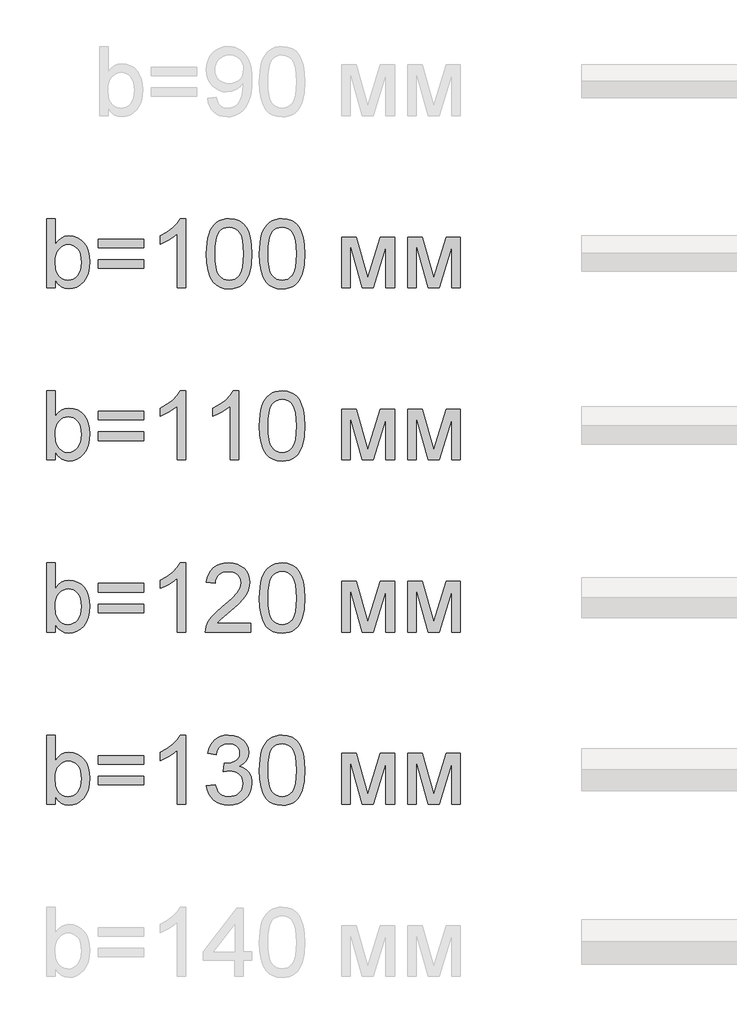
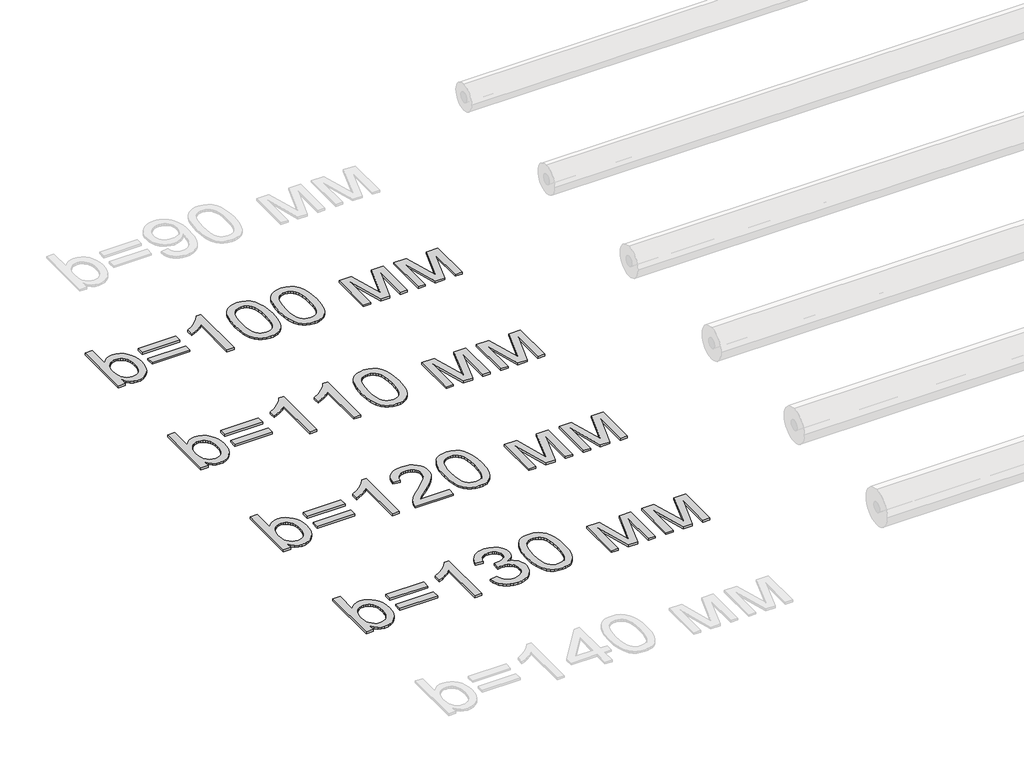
# One storey, part 53 of 86: 4 proxies.
"""IFC4 building model written with IfcOpenShell, lengths in millimetres."""

import ifcopenshell
import ifcopenshell.guid

model = None  # the IFC model being written
_history = None  # IfcOwnerHistory: only IFC2X3 demands one
_inside = {}  # id of a spatial element -> (the spatial element, [elements in it])
_under = {}  # id of a project, library or spatial element -> (it, [spatial elements below it])
_declared = {}  # id of a project -> (the project, [libraries it declares])
_typed = {}  # id of a type object -> (the type object, [elements of that type])
_made_of = {}  # id of a material, layer set ... -> (it, [elements and type objects made of it])


def new_model(schema):
    """Start an empty IFC model of exactly this schema.

    Asked for "IFC4X3", IfcOpenShell would pick the latest addendum, in which some entities
    have other attributes; the version numbers below select the first issue.
    IFC2X3 requires an IfcOwnerHistory on every rooted entity: one is made here for all.
    """
    global model, _history
    if schema == "IFC4X3":
        model = ifcopenshell.file(schema_version=(4, 3, 0, 0))
    else:
        model = ifcopenshell.file(schema=schema)
    _inside.clear()
    _under.clear()
    _declared.clear()
    _typed.clear()
    _made_of.clear()
    _history = None
    if model.schema == "IFC2X3":
        org = make("IfcOrganization", Name="unknown")
        user = make(
            "IfcPersonAndOrganization",
            ThePerson=make("IfcPerson", FamilyName="unknown"),
            TheOrganization=org,
        )
        app = make(
            "IfcApplication",
            ApplicationDeveloper=org,
            Version="unknown",
            ApplicationFullName="unknown",
            ApplicationIdentifier="unknown",
        )
        _history = make(
            "IfcOwnerHistory",
            OwningUser=user,
            OwningApplication=app,
            ChangeAction="ADDED",
            CreationDate=0,
        )
    return model


def make(cls, **values):
    """One entity of the class cls with the attributes given. An attribute that is None is left unset."""
    return model.create_entity(
        cls, **{name: value for name, value in values.items() if value is not None}
    )


def rooted(cls, **values):
    """An entity with a GlobalId (a new one), such as an element, a storey or a relation."""
    return make(cls, GlobalId=ifcopenshell.guid.new(), OwnerHistory=_history, **values)


def si_unit(unit_type, name, prefix=None):
    """IfcSIUnit, for example si_unit("LENGTHUNIT", "METRE", prefix="MILLI")."""
    return make("IfcSIUnit", UnitType=unit_type, Prefix=prefix, Name=name)


def assignment(units):
    """IfcUnitAssignment: the units of a project."""
    return None if units is None else make("IfcUnitAssignment", Units=units)


def point(xyz):
    """IfcCartesianPoint."""
    return None if xyz is None else make("IfcCartesianPoint", Coordinates=xyz)


def direction(xyz):
    """IfcDirection."""
    return None if xyz is None else make("IfcDirection", DirectionRatios=xyz)


def frame(location, z_axis=None, x_axis=None):
    """IfcAxis2Placement3D, a coordinate frame: its origin and axes. An axis left out is left unset."""
    return make(
        "IfcAxis2Placement3D",
        Location=point(location),
        Axis=direction(z_axis),
        RefDirection=direction(x_axis),
    )


def origin():
    """The frame at (0, 0, 0) with its axes left unset."""
    return frame((0.0, 0.0, 0.0))


def origin_with_axes():
    """The frame at (0, 0, 0) with the z axis (0, 0, 1) and the x axis (1, 0, 0) written out."""
    return frame((0.0, 0.0, 0.0), z_axis=(0.0, 0.0, 1.0), x_axis=(1.0, 0.0, 0.0))


def place(relative_to, where):
    """IfcLocalPlacement: puts the frame where relative to a parent placement (None: the world)."""
    return make(
        "IfcLocalPlacement", PlacementRelTo=relative_to, RelativePlacement=where
    )


def context(
    kind, dimensions, precision=None, world=None, true_north=None, identifier=None
):
    """IfcGeometricRepresentationContext, for example the 3D "Model" context."""
    return make(
        "IfcGeometricRepresentationContext",
        ContextIdentifier=identifier,
        ContextType=kind,
        CoordinateSpaceDimension=dimensions,
        Precision=precision,
        WorldCoordinateSystem=world,
        TrueNorth=true_north,
    )


def project(units=None, contexts=None):
    """IfcProject with its units and contexts."""
    return rooted(
        "IfcProject",
        Name="project",
        RepresentationContexts=contexts,
        UnitsInContext=assignment(units),
    )


def spatial(cls, under=None, at=None, **own):
    """A site, building, storey or space (cls), placed at a placement, below another one or the project."""
    s = rooted(cls, ObjectPlacement=at, **own)
    if under is not None:
        _under.setdefault(under.id(), (under, []))[1].append(s)
    return s


def polyline(points):
    """IfcPolyline through the points."""
    return make("IfcPolyline", Points=[point(p) for p in points])


def outline(outer, holes=None, kind="AREA"):
    """IfcArbitraryClosedProfileDef: a profile drawn as a closed curve; with holes, ...WithVoids."""
    if holes is None:
        return make("IfcArbitraryClosedProfileDef", ProfileType=kind, OuterCurve=outer)
    return make(
        "IfcArbitraryProfileDefWithVoids",
        ProfileType=kind,
        OuterCurve=outer,
        InnerCurves=holes,
    )


def extrude(swept, where, along, depth):
    """IfcExtrudedAreaSolid: the profile swept, set in the frame where, extruded along a direction by depth."""
    return make(
        "IfcExtrudedAreaSolid",
        SweptArea=swept,
        Position=where,
        ExtrudedDirection=direction(along),
        Depth=depth,
    )


def shape(context_of_items, identifier, shape_type, items):
    """IfcShapeRepresentation: the items that make up one representation, for example the "Body"."""
    return make(
        "IfcShapeRepresentation",
        ContextOfItems=context_of_items,
        RepresentationIdentifier=identifier,
        RepresentationType=shape_type,
        Items=items,
    )


def made_of(thing, what):
    """Note that an element or type object is made of a material, layer set ...; save() writes the relation."""
    if what is not None:
        _made_of.setdefault(what.id(), (what, []))[1].append(thing)
    return thing


def element(
    cls,
    number,
    at=None,
    inside=None,
    cuts=None,
    type_object=None,
    material=None,
    context=None,
    identifier="Body",
    shape_type=None,
    held_by="IfcProductDefinitionShape",
    body=None,
    shapes=None,
    **own,
):
    """One element of the class cls, such as IfcWall. Its Tag is "e" and its number.

    at: its placement. inside: the storey or other place that contains it. cuts: it is an
    opening in that element (IfcRelVoidsElement). A single representation is given by context,
    identifier, shape_type and body (its items); several are given by shapes. held_by: the class
    of the entity that holds the representations. save() writes the other relations.
    """
    e = rooted(cls, Tag="e%d" % number, ObjectPlacement=at, **own)
    if body is not None:
        shapes = [shape(context, identifier, shape_type, body)]
    if shapes is not None:
        e.Representation = make(held_by, Representations=shapes)
    if inside is not None:
        _inside.setdefault(inside.id(), (inside, []))[1].append(e)
    if cuts is not None:
        rooted(
            "IfcRelVoidsElement", RelatingBuildingElement=cuts, RelatedOpeningElement=e
        )
    if type_object is not None:
        _typed.setdefault(type_object.id(), (type_object, []))[1].append(e)
    return made_of(e, material)


def aggregate(whole, parts):
    """IfcRelAggregates: a whole, such as a stair, and the parts it consists of."""
    return rooted("IfcRelAggregates", RelatingObject=whole, RelatedObjects=parts)


def save(model, path):
    """Write the relations noted so far, then the file.

    IfcRelAggregates (storeys below a building ...), IfcRelContainedInSpatialStructure (elements
    in a storey), IfcRelDefinesByType, IfcRelAssociatesMaterial and IfcRelDeclares: one each for
    every whole, place, type object, material and project.
    """
    for whole, parts in _under.values():
        aggregate(whole, parts)
    for where, things in _inside.values():
        rooted(
            "IfcRelContainedInSpatialStructure",
            RelatedElements=things,
            RelatingStructure=where,
        )
    for kind, things in _typed.values():
        rooted("IfcRelDefinesByType", RelatedObjects=things, RelatingType=kind)
    for what, things in _made_of.values():
        rooted("IfcRelAssociatesMaterial", RelatedObjects=things, RelatingMaterial=what)
    for by, libraries in _declared.values():
        rooted("IfcRelDeclares", RelatingContext=by, RelatedDefinitions=libraries)
    model.write(path)


model = new_model("IFC4")

# Units and contexts
model_context = context("Model", 3, world=origin())
ifc_project = project(units=[si_unit("LENGTHUNIT", "METRE", prefix="MILLI")], contexts=[model_context])

# Site, building, storey
site = spatial("IfcSite", under=ifc_project)
building = spatial("IfcBuilding", under=site)
storey = spatial("IfcBuildingStorey", under=building, Name="Уровень 1", Elevation=0.0)

# Proxies
placement = place(None, origin())
element("IfcBuildingElementProxy", 1, Name="Текст модели 1", ObjectType="Текст модели 1", at=placement, inside=storey, context=model_context, shape_type="SweptSolid", body=[
    extrude(outline(polyline([(46698.159624, 15669.2937088), (46622.8173914, 15669.2937088), (46622.8173914, 16272.0315697), (46698.159624, 16272.0315697), (46698.159624, 16048.5064694), (46722.9364764, 16080.3742473), (46750.9139022, 16103.1369457), (46782.0919012, 16116.7945648), (46816.4704737, 16121.3471045), (46855.2820242, 16117.2452202), (46891.9598591, 16104.9395675), (46924.4070511, 16085.2026984), (46950.5266727, 16058.8071653), (46970.9993058, 16026.0104854), (46986.5055319, 15987.0701762), (46996.2727988, 15943.6049185), (46999.5285545, 15897.233393), (46996.1578357, 15843.7249568), (46986.0456794, 15796.6544555), (46969.1920855, 15756.0218892), (46945.597054, 15721.8272577), (46917.2747389, 15694.7235517), (46886.2392941, 15675.3637617), (46852.4907195, 15663.7478877), (46816.0290153, 15659.8759297), (46780.5192057, 15664.8699278), (46749.037704, 15679.8519221), (46721.5845101, 15704.8219125), (46698.159624, 15739.7798991), (46698.159624, 15669.2937088)]), holes=[polyline([(46698.159624, 15893.7017259), (46703.309972, 15830.8674811), (46709.7479069, 15807.065516), (46718.7610158, 15788.3403224), (46737.0171598, 15765.0993774), (46758.2347539, 15748.4987024), (46782.413798, 15738.5382973), (46809.5542922, 15735.2181623), (46832.0870644, 15737.6645776), (46853.037944, 15745.0038234), (46872.4069311, 15757.2358997), (46890.1940255, 15774.3608066), (46905.0656552, 15796.3325588), (46915.6882478, 15823.105171), (46922.0618034, 15854.6786432), (46924.1863219, 15891.0529755), (46922.1491753, 15928.1170865), (46916.0377357, 15959.9940614), (46905.8520029, 15986.6839001), (46891.5919771, 16008.1866028), (46874.4440776, 16024.7320955), (46855.5947239, 16036.5503046), (46835.0439159, 16043.64123), (46812.7916537, 16046.0048719), (46790.2588815, 16043.5584566), (46769.3080019, 16036.2192108), (46749.9390149, 16023.9871344), (46732.1519204, 16006.8622276), (46717.2802907, 15985.1112046), (46706.6576981, 15959.00078), (46700.2841426, 15928.5309538), (46698.159624, 15893.7017259)])]), origin_with_axes(), (0.0, 0.0, 1.0), 20.0),
    extrude(outline(polyline([(47470.4175083, 16017.7515346), (47074.8707871, 16017.7515346), (47074.8707871, 16093.0937672), (47470.4175083, 16093.0937672), (47470.4175083, 16017.7515346)])), origin_with_axes(), (0.0, 0.0, 1.0), 20.0),
    extrude(outline(polyline([(47470.4175083, 15838.8137322), (47074.8707871, 15838.8137322), (47074.8707871, 15914.1559648), (47470.4175083, 15914.1559648), (47470.4175083, 15838.8137322)])), origin_with_axes(), (0.0, 0.0, 1.0), 20.0),
    extrude(outline(polyline([(47837.7108923, 15669.2937088), (47762.3686597, 15669.2937088), (47762.3686597, 16139.0054402), (47730.9147491, 16113.5664003), (47690.9995526, 16088.1641485), (47649.0977934, 16065.9624701), (47611.6841945, 16050.1251502), (47611.6841945, 16121.3471045), (47670.8580134, 16153.5367791), (47722.1223694, 16191.8332947), (47762.5342066, 16232.5578316), (47789.1504689, 16272.0315697), (47837.7108923, 16272.0315697), (47837.7108923, 15669.2937088)])), origin_with_axes(), (0.0, 0.0, 1.0), 20.0),
    extrude(outline(polyline([(48016.6486948, 15965.8065969), (48022.1853188, 16062.2836501), (48029.1060988, 16103.1967265), (48038.7951909, 16139.2261694), (48051.2112082, 16170.6662845), (48066.3127641, 16197.8113772), (48084.0998586, 16220.6614476), (48104.5724916, 16239.2164957), (48127.7996411, 16253.5730906), (48153.8502849, 16263.8278012), (48182.724423, 16269.9806276), (48214.4220554, 16272.0315697), (48260.8487632, 16267.1755274), (48302.4194286, 16252.6074004), (48337.1842772, 16228.8974058), (48363.1935342, 16196.6157607), (48382.8384328, 16156.0383766), (48398.5102058, 16107.4411651), (48408.7741134, 16045.7289604), (48412.195416, 15965.8065969), (48406.7139742, 15869.8813667), (48399.8621721, 15829.106246), (48390.2696491, 15793.1227884), (48377.9502007, 15761.6688778), (48362.9176227, 15734.4823983), (48345.171915, 15711.56335), (48324.7130775, 15692.9117329), (48301.4583369, 15678.458569), (48275.3249197, 15668.1348805), (48246.3128258, 15661.9406674), (48214.4220554, 15659.8759297), (48172.9249663, 15663.4627792), (48136.1367668, 15674.2233275), (48104.0574568, 15692.1575748), (48076.6870364, 15717.265521), (48050.4202619, 15762.6529621), (48031.6582802, 15819.2056218), (48020.4010911, 15886.9235001), (48016.6486948, 15965.8065969)]), holes=[polyline([(48091.9909274, 15965.9537497), (48094.1982193, 15900.456959), (48100.8200953, 15847.440565), (48111.8565551, 15806.9045676), (48127.3075989, 15778.848967), (48145.9960043, 15759.7604899), (48166.7445488, 15746.1258635), (48189.5532325, 15737.9450876), (48214.4220554, 15735.2181623), (48239.2908782, 15737.9542847), (48262.0995619, 15746.1626517), (48282.8481065, 15759.8432634), (48301.5365118, 15778.9961198), (48316.9875556, 15807.0977057), (48328.0240155, 15847.624506), (48334.6458914, 15900.5765206), (48336.8531834, 15965.9537497), (48334.7194678, 16029.7168965), (48328.3183211, 16081.79979), (48317.6497432, 16122.2024301), (48302.7137342, 16150.9248169), (48284.3380285, 16170.9467945), (48263.3503607, 16185.248207), (48239.7507307, 16193.8290546), (48213.5391386, 16196.6893371), (48188.7990744, 16194.1693454), (48166.3766668, 16186.6093704), (48146.2719158, 16174.0094121), (48128.4848213, 16156.3694704), (48112.5187427, 16125.0995008), (48101.1144009, 16082.9402242), (48094.2717957, 16029.8916405), (48091.9909274, 15965.9537497)])]), origin_with_axes(), (0.0, 0.0, 1.0), 20.0),
    extrude(outline(polyline([(48478.1198695, 15965.8065969), (48483.6564935, 16062.2836501), (48490.5772736, 16103.1967265), (48500.2663656, 16139.2261694), (48512.682383, 16170.6662845), (48527.7839389, 16197.8113772), (48545.5710333, 16220.6614476), (48566.0436664, 16239.2164957), (48589.2708158, 16253.5730906), (48615.3214596, 16263.8278012), (48644.1955977, 16269.9806276), (48675.8932301, 16272.0315697), (48722.3199379, 16267.1755274), (48763.8906034, 16252.6074004), (48798.6554519, 16228.8974058), (48824.664709, 16196.6157607), (48844.3096075, 16156.0383766), (48859.9813805, 16107.4411651), (48870.2452882, 16045.7289604), (48873.6665907, 15965.8065969), (48868.185149, 15869.8813667), (48861.3333468, 15829.106246), (48851.7408238, 15793.1227884), (48839.4213755, 15761.6688778), (48824.3887975, 15734.4823983), (48806.6430897, 15711.56335), (48786.1842523, 15692.9117329), (48762.9295116, 15678.458569), (48736.7960944, 15668.1348805), (48707.7840006, 15661.9406674), (48675.8932301, 15659.8759297), (48634.3961411, 15663.4627792), (48597.6079415, 15674.2233275), (48565.5286316, 15692.1575748), (48538.1582111, 15717.265521), (48511.8914367, 15762.6529621), (48493.1294549, 15819.2056218), (48481.8722659, 15886.9235001), (48478.1198695, 15965.8065969)]), holes=[polyline([(48553.4621021, 15965.9537497), (48555.6693941, 15900.456959), (48562.29127, 15847.440565), (48573.3277299, 15806.9045676), (48588.7787737, 15778.848967), (48607.467179, 15759.7604899), (48628.2157235, 15746.1258635), (48651.0244072, 15737.9450876), (48675.8932301, 15735.2181623), (48700.762053, 15737.9542847), (48723.5707367, 15746.1626517), (48744.3192812, 15759.8432634), (48763.0076866, 15778.9961198), (48778.4587304, 15807.0977057), (48789.4951902, 15847.624506), (48796.1170661, 15900.5765206), (48798.3243581, 15965.9537497), (48796.1906425, 16029.7168965), (48789.7894958, 16081.79979), (48779.120918, 16122.2024301), (48764.184909, 16150.9248169), (48745.8092033, 16170.9467945), (48724.8215355, 16185.248207), (48701.2219055, 16193.8290546), (48675.0103133, 16196.6893371), (48650.2702492, 16194.1693454), (48627.8478415, 16186.6093704), (48607.7430905, 16174.0094121), (48589.955996, 16156.3694704), (48573.9899175, 16125.0995008), (48562.5855756, 16082.9402242), (48555.7429705, 16029.8916405), (48553.4621021, 15965.9537497)])]), origin_with_axes(), (0.0, 0.0, 1.0), 20.0),
    extrude(outline(polyline([(49193.8710793, 16111.9293254), (49323.5126944, 16111.9293254), (49423.4294443, 15757.5853876), (49531.1452925, 16111.9293254), (49655.3422541, 16111.9293254), (49655.3422541, 15669.2937088), (49580.0000215, 15669.2937088), (49580.0000215, 16025.6977857), (49471.6955621, 15669.2937088), (49372.8088818, 15669.2937088), (49269.2133119, 16042.7675103), (49269.2133119, 15669.2937088), (49193.8710793, 15669.2937088), (49193.8710793, 16111.9293254)])), origin_with_axes(), (0.0, 0.0, 1.0), 20.0),
    extrude(outline(polyline([(49768.355603, 16111.9293254), (49897.9972181, 16111.9293254), (49997.913968, 15757.5853876), (50105.6298162, 16111.9293254), (50229.8267777, 16111.9293254), (50229.8267777, 15669.2937088), (50154.4845451, 15669.2937088), (50154.4845451, 16025.6977857), (50046.1800857, 15669.2937088), (49947.2934054, 15669.2937088), (49843.6978356, 16042.7675103), (49843.6978356, 15669.2937088), (49768.355603, 15669.2937088), (49768.355603, 16111.9293254)])), origin_with_axes(), (0.0, 0.0, 1.0), 20.0),
])
element("IfcBuildingElementProxy", 2, Name="Текст модели 1", ObjectType="Текст модели 1", at=placement, inside=storey, context=model_context, shape_type="SweptSolid", body=[
    extrude(outline(polyline([(46698.159624, 14169.2937088), (46622.8173914, 14169.2937088), (46622.8173914, 14772.0315697), (46698.159624, 14772.0315697), (46698.159624, 14548.5064694), (46722.9364764, 14580.3742473), (46750.9139022, 14603.1369457), (46782.0919012, 14616.7945648), (46816.4704737, 14621.3471045), (46855.2820242, 14617.2452202), (46891.9598591, 14604.9395675), (46924.4070511, 14585.2026984), (46950.5266727, 14558.8071653), (46970.9993058, 14526.0104854), (46986.5055319, 14487.0701762), (46996.2727988, 14443.6049185), (46999.5285545, 14397.233393), (46996.1578357, 14343.7249568), (46986.0456794, 14296.6544555), (46969.1920855, 14256.0218892), (46945.597054, 14221.8272577), (46917.2747389, 14194.7235517), (46886.2392941, 14175.3637617), (46852.4907195, 14163.7478877), (46816.0290153, 14159.8759297), (46780.5192057, 14164.8699278), (46749.037704, 14179.8519221), (46721.5845101, 14204.8219125), (46698.159624, 14239.7798991), (46698.159624, 14169.2937088)]), holes=[polyline([(46698.159624, 14393.7017259), (46703.309972, 14330.8674811), (46709.7479069, 14307.065516), (46718.7610158, 14288.3403224), (46737.0171598, 14265.0993774), (46758.2347539, 14248.4987024), (46782.413798, 14238.5382973), (46809.5542922, 14235.2181623), (46832.0870644, 14237.6645776), (46853.037944, 14245.0038234), (46872.4069311, 14257.2358997), (46890.1940255, 14274.3608066), (46905.0656552, 14296.3325588), (46915.6882478, 14323.105171), (46922.0618034, 14354.6786432), (46924.1863219, 14391.0529755), (46922.1491753, 14428.1170865), (46916.0377357, 14459.9940614), (46905.8520029, 14486.6839001), (46891.5919771, 14508.1866028), (46874.4440776, 14524.7320955), (46855.5947239, 14536.5503046), (46835.0439159, 14543.64123), (46812.7916537, 14546.0048719), (46790.2588815, 14543.5584566), (46769.3080019, 14536.2192108), (46749.9390149, 14523.9871344), (46732.1519204, 14506.8622276), (46717.2802907, 14485.1112046), (46706.6576981, 14459.00078), (46700.2841426, 14428.5309538), (46698.159624, 14393.7017259)])]), origin_with_axes(), (0.0, 0.0, 1.0), 20.0),
    extrude(outline(polyline([(47470.4175083, 14517.7515346), (47074.8707871, 14517.7515346), (47074.8707871, 14593.0937672), (47470.4175083, 14593.0937672), (47470.4175083, 14517.7515346)])), origin_with_axes(), (0.0, 0.0, 1.0), 20.0),
    extrude(outline(polyline([(47470.4175083, 14338.8137322), (47074.8707871, 14338.8137322), (47074.8707871, 14414.1559648), (47470.4175083, 14414.1559648), (47470.4175083, 14338.8137322)])), origin_with_axes(), (0.0, 0.0, 1.0), 20.0),
    extrude(outline(polyline([(47837.7108923, 14169.2937088), (47762.3686597, 14169.2937088), (47762.3686597, 14639.0054402), (47730.9147491, 14613.5664003), (47690.9995526, 14588.1641485), (47649.0977934, 14565.9624701), (47611.6841945, 14550.1251502), (47611.6841945, 14621.3471045), (47670.8580134, 14653.5367791), (47722.1223694, 14691.8332947), (47762.5342066, 14732.5578316), (47789.1504689, 14772.0315697), (47837.7108923, 14772.0315697), (47837.7108923, 14169.2937088)])), origin_with_axes(), (0.0, 0.0, 1.0), 20.0),
    extrude(outline(polyline([(48299.1820671, 14169.2937088), (48223.8398344, 14169.2937088), (48223.8398344, 14639.0054402), (48192.3859239, 14613.5664003), (48152.4707274, 14588.1641485), (48110.5689681, 14565.9624701), (48073.1553692, 14550.1251502), (48073.1553692, 14621.3471045), (48132.3291881, 14653.5367791), (48183.5935442, 14691.8332947), (48224.0053813, 14732.5578316), (48250.6216437, 14772.0315697), (48299.1820671, 14772.0315697), (48299.1820671, 14169.2937088)])), origin_with_axes(), (0.0, 0.0, 1.0), 20.0),
    extrude(outline(polyline([(48478.1198695, 14465.8065969), (48483.6564935, 14562.2836501), (48490.5772736, 14603.1967265), (48500.2663656, 14639.2261694), (48512.682383, 14670.6662845), (48527.7839389, 14697.8113772), (48545.5710333, 14720.6614476), (48566.0436664, 14739.2164957), (48589.2708158, 14753.5730906), (48615.3214596, 14763.8278012), (48644.1955977, 14769.9806276), (48675.8932301, 14772.0315697), (48722.3199379, 14767.1755274), (48763.8906034, 14752.6074004), (48798.6554519, 14728.8974058), (48824.664709, 14696.6157607), (48844.3096075, 14656.0383766), (48859.9813805, 14607.4411651), (48870.2452882, 14545.7289604), (48873.6665907, 14465.8065969), (48868.185149, 14369.8813667), (48861.3333468, 14329.106246), (48851.7408238, 14293.1227884), (48839.4213755, 14261.6688778), (48824.3887975, 14234.4823983), (48806.6430897, 14211.56335), (48786.1842523, 14192.9117329), (48762.9295116, 14178.458569), (48736.7960944, 14168.1348805), (48707.7840006, 14161.9406674), (48675.8932301, 14159.8759297), (48634.3961411, 14163.4627792), (48597.6079415, 14174.2233275), (48565.5286316, 14192.1575748), (48538.1582111, 14217.265521), (48511.8914367, 14262.6529621), (48493.1294549, 14319.2056218), (48481.8722659, 14386.9235001), (48478.1198695, 14465.8065969)]), holes=[polyline([(48553.4621021, 14465.9537497), (48555.6693941, 14400.456959), (48562.29127, 14347.440565), (48573.3277299, 14306.9045676), (48588.7787737, 14278.848967), (48607.467179, 14259.7604899), (48628.2157235, 14246.1258635), (48651.0244072, 14237.9450876), (48675.8932301, 14235.2181623), (48700.762053, 14237.9542847), (48723.5707367, 14246.1626517), (48744.3192812, 14259.8432634), (48763.0076866, 14278.9961198), (48778.4587304, 14307.0977057), (48789.4951902, 14347.624506), (48796.1170661, 14400.5765206), (48798.3243581, 14465.9537497), (48796.1906425, 14529.7168965), (48789.7894958, 14581.79979), (48779.120918, 14622.2024301), (48764.184909, 14650.9248169), (48745.8092033, 14670.9467945), (48724.8215355, 14685.248207), (48701.2219055, 14693.8290546), (48675.0103133, 14696.6893371), (48650.2702492, 14694.1693454), (48627.8478415, 14686.6093704), (48607.7430905, 14674.0094121), (48589.955996, 14656.3694704), (48573.9899175, 14625.0995008), (48562.5855756, 14582.9402242), (48555.7429705, 14529.8916405), (48553.4621021, 14465.9537497)])]), origin_with_axes(), (0.0, 0.0, 1.0), 20.0),
    extrude(outline(polyline([(49193.8710793, 14611.9293254), (49323.5126944, 14611.9293254), (49423.4294443, 14257.5853876), (49531.1452925, 14611.9293254), (49655.3422541, 14611.9293254), (49655.3422541, 14169.2937088), (49580.0000215, 14169.2937088), (49580.0000215, 14525.6977857), (49471.6955621, 14169.2937088), (49372.8088818, 14169.2937088), (49269.2133119, 14542.7675103), (49269.2133119, 14169.2937088), (49193.8710793, 14169.2937088), (49193.8710793, 14611.9293254)])), origin_with_axes(), (0.0, 0.0, 1.0), 20.0),
    extrude(outline(polyline([(49768.355603, 14611.9293254), (49897.9972181, 14611.9293254), (49997.913968, 14257.5853876), (50105.6298162, 14611.9293254), (50229.8267777, 14611.9293254), (50229.8267777, 14169.2937088), (50154.4845451, 14169.2937088), (50154.4845451, 14525.6977857), (50046.1800857, 14169.2937088), (49947.2934054, 14169.2937088), (49843.6978356, 14542.7675103), (49843.6978356, 14169.2937088), (49768.355603, 14169.2937088), (49768.355603, 14611.9293254)])), origin_with_axes(), (0.0, 0.0, 1.0), 20.0),
])
element("IfcBuildingElementProxy", 3, Name="Текст модели 1", ObjectType="Текст модели 1", at=placement, inside=storey, context=model_context, shape_type="SweptSolid", body=[
    extrude(outline(polyline([(46698.159624, 12669.2937088), (46622.8173914, 12669.2937088), (46622.8173914, 13272.0315697), (46698.159624, 13272.0315697), (46698.159624, 13048.5064694), (46722.9364764, 13080.3742473), (46750.9139022, 13103.1369457), (46782.0919012, 13116.7945648), (46816.4704737, 13121.3471045), (46855.2820242, 13117.2452202), (46891.9598591, 13104.9395675), (46924.4070511, 13085.2026984), (46950.5266727, 13058.8071653), (46970.9993058, 13026.0104854), (46986.5055319, 12987.0701762), (46996.2727988, 12943.6049185), (46999.5285545, 12897.233393), (46996.1578357, 12843.7249568), (46986.0456794, 12796.6544555), (46969.1920855, 12756.0218892), (46945.597054, 12721.8272577), (46917.2747389, 12694.7235517), (46886.2392941, 12675.3637617), (46852.4907195, 12663.7478877), (46816.0290153, 12659.8759297), (46780.5192057, 12664.8699278), (46749.037704, 12679.8519221), (46721.5845101, 12704.8219125), (46698.159624, 12739.7798991), (46698.159624, 12669.2937088)]), holes=[polyline([(46698.159624, 12893.7017259), (46703.309972, 12830.8674811), (46709.7479069, 12807.065516), (46718.7610158, 12788.3403224), (46737.0171598, 12765.0993774), (46758.2347539, 12748.4987024), (46782.413798, 12738.5382973), (46809.5542922, 12735.2181623), (46832.0870644, 12737.6645776), (46853.037944, 12745.0038234), (46872.4069311, 12757.2358997), (46890.1940255, 12774.3608066), (46905.0656552, 12796.3325588), (46915.6882478, 12823.105171), (46922.0618034, 12854.6786432), (46924.1863219, 12891.0529755), (46922.1491753, 12928.1170865), (46916.0377357, 12959.9940614), (46905.8520029, 12986.6839001), (46891.5919771, 13008.1866028), (46874.4440776, 13024.7320955), (46855.5947239, 13036.5503046), (46835.0439159, 13043.64123), (46812.7916537, 13046.0048719), (46790.2588815, 13043.5584566), (46769.3080019, 13036.2192108), (46749.9390149, 13023.9871344), (46732.1519204, 13006.8622276), (46717.2802907, 12985.1112046), (46706.6576981, 12959.00078), (46700.2841426, 12928.5309538), (46698.159624, 12893.7017259)])]), origin_with_axes(), (0.0, 0.0, 1.0), 20.0),
    extrude(outline(polyline([(47470.4175083, 13017.7515346), (47074.8707871, 13017.7515346), (47074.8707871, 13093.0937672), (47470.4175083, 13093.0937672), (47470.4175083, 13017.7515346)])), origin_with_axes(), (0.0, 0.0, 1.0), 20.0),
    extrude(outline(polyline([(47470.4175083, 12838.8137322), (47074.8707871, 12838.8137322), (47074.8707871, 12914.1559648), (47470.4175083, 12914.1559648), (47470.4175083, 12838.8137322)])), origin_with_axes(), (0.0, 0.0, 1.0), 20.0),
    extrude(outline(polyline([(47837.7108923, 12669.2937088), (47762.3686597, 12669.2937088), (47762.3686597, 13139.0054402), (47730.9147491, 13113.5664003), (47690.9995526, 13088.1641485), (47649.0977934, 13065.9624701), (47611.6841945, 13050.1251502), (47611.6841945, 13121.3471045), (47670.8580134, 13153.5367791), (47722.1223694, 13191.8332947), (47762.5342066, 13232.5578316), (47789.1504689, 13272.0315697), (47837.7108923, 13272.0315697), (47837.7108923, 12669.2937088)])), origin_with_axes(), (0.0, 0.0, 1.0), 20.0),
    extrude(outline(polyline([(48402.7776369, 12744.6359414), (48402.7776369, 12669.2937088), (48007.2309157, 12669.2937088), (48008.8863847, 12695.8180007), (48015.3243196, 12721.2386465), (48033.9023603, 12761.8344247), (48061.0888398, 12801.2161923), (48100.4154251, 12842.4373698), (48155.4137833, 12888.5513779), (48236.7157043, 12960.7666136), (48285.4968568, 13014.0727147), (48299.724693, 13035.8513288), (48309.8874331, 13057.3356373), (48315.9850772, 13078.5256402), (48318.0176252, 13099.4213376), (48316.1000403, 13119.0800317), (48310.3472856, 13137.1476362), (48300.7593611, 13153.624151), (48287.3362668, 13168.5095763), (48270.8229638, 13180.8382216), (48251.964413, 13189.6443969), (48230.7606145, 13194.928102), (48207.2115683, 13196.6893371), (48182.4025262, 13194.9694888), (48160.2146434, 13189.8099438), (48140.6479198, 13181.2107021), (48123.7023554, 13169.1717638), (48109.9941525, 13154.0977991), (48100.1395136, 13136.3934781), (48094.1384385, 13116.0588008), (48091.9909274, 13093.0937672), (48016.6486948, 13102.5115463), (48023.1280164, 13141.4058703), (48034.9140358, 13175.3889696), (48052.006753, 13204.4608442), (48074.406168, 13228.6214943), (48101.597246, 13247.6134023), (48133.0649521, 13261.1790508), (48168.8092865, 13269.31844), (48208.830249, 13272.0315697), (48249.2098965, 13269.0149373), (48285.1473689, 13259.9650403), (48316.6426662, 13244.8818785), (48343.6957885, 13223.7654519), (48365.4238188, 13198.1792592), (48380.9438405, 13169.6867986), (48390.2558535, 13138.2880704), (48393.3598578, 13103.9830743), (48390.0121317, 13067.9490329), (48379.9689532, 13032.5403908), (48362.1450705, 12996.5247435), (48335.4552318, 12958.6696862), (48292.909679, 12913.4753831), (48227.5186544, 12855.4419984), (48140.8456563, 12782.9692453), (48106.85336, 12744.6359414), (48402.7776369, 12744.6359414)])), origin_with_axes(), (0.0, 0.0, 1.0), 20.0),
    extrude(outline(polyline([(48478.1198695, 12965.8065969), (48483.6564935, 13062.2836501), (48490.5772736, 13103.1967265), (48500.2663656, 13139.2261694), (48512.682383, 13170.6662845), (48527.7839389, 13197.8113772), (48545.5710333, 13220.6614476), (48566.0436664, 13239.2164957), (48589.2708158, 13253.5730906), (48615.3214596, 13263.8278012), (48644.1955977, 13269.9806276), (48675.8932301, 13272.0315697), (48722.3199379, 13267.1755274), (48763.8906034, 13252.6074004), (48798.6554519, 13228.8974058), (48824.664709, 13196.6157607), (48844.3096075, 13156.0383766), (48859.9813805, 13107.4411651), (48870.2452882, 13045.7289604), (48873.6665907, 12965.8065969), (48868.185149, 12869.8813667), (48861.3333468, 12829.106246), (48851.7408238, 12793.1227884), (48839.4213755, 12761.6688778), (48824.3887975, 12734.4823983), (48806.6430897, 12711.56335), (48786.1842523, 12692.9117329), (48762.9295116, 12678.458569), (48736.7960944, 12668.1348805), (48707.7840006, 12661.9406674), (48675.8932301, 12659.8759297), (48634.3961411, 12663.4627792), (48597.6079415, 12674.2233275), (48565.5286316, 12692.1575748), (48538.1582111, 12717.265521), (48511.8914367, 12762.6529621), (48493.1294549, 12819.2056218), (48481.8722659, 12886.9235001), (48478.1198695, 12965.8065969)]), holes=[polyline([(48553.4621021, 12965.9537497), (48555.6693941, 12900.456959), (48562.29127, 12847.440565), (48573.3277299, 12806.9045676), (48588.7787737, 12778.848967), (48607.467179, 12759.7604899), (48628.2157235, 12746.1258635), (48651.0244072, 12737.9450876), (48675.8932301, 12735.2181623), (48700.762053, 12737.9542847), (48723.5707367, 12746.1626517), (48744.3192812, 12759.8432634), (48763.0076866, 12778.9961198), (48778.4587304, 12807.0977057), (48789.4951902, 12847.624506), (48796.1170661, 12900.5765206), (48798.3243581, 12965.9537497), (48796.1906425, 13029.7168965), (48789.7894958, 13081.79979), (48779.120918, 13122.2024301), (48764.184909, 13150.9248169), (48745.8092033, 13170.9467945), (48724.8215355, 13185.248207), (48701.2219055, 13193.8290546), (48675.0103133, 13196.6893371), (48650.2702492, 13194.1693454), (48627.8478415, 13186.6093704), (48607.7430905, 13174.0094121), (48589.955996, 13156.3694704), (48573.9899175, 13125.0995008), (48562.5855756, 13082.9402242), (48555.7429705, 13029.8916405), (48553.4621021, 12965.9537497)])]), origin_with_axes(), (0.0, 0.0, 1.0), 20.0),
    extrude(outline(polyline([(49193.8710793, 13111.9293254), (49323.5126944, 13111.9293254), (49423.4294443, 12757.5853876), (49531.1452925, 13111.9293254), (49655.3422541, 13111.9293254), (49655.3422541, 12669.2937088), (49580.0000215, 12669.2937088), (49580.0000215, 13025.6977857), (49471.6955621, 12669.2937088), (49372.8088818, 12669.2937088), (49269.2133119, 13042.7675103), (49269.2133119, 12669.2937088), (49193.8710793, 12669.2937088), (49193.8710793, 13111.9293254)])), origin_with_axes(), (0.0, 0.0, 1.0), 20.0),
    extrude(outline(polyline([(49768.355603, 13111.9293254), (49897.9972181, 13111.9293254), (49997.913968, 12757.5853876), (50105.6298162, 13111.9293254), (50229.8267777, 13111.9293254), (50229.8267777, 12669.2937088), (50154.4845451, 12669.2937088), (50154.4845451, 13025.6977857), (50046.1800857, 12669.2937088), (49947.2934054, 12669.2937088), (49843.6978356, 13042.7675103), (49843.6978356, 12669.2937088), (49768.355603, 12669.2937088), (49768.355603, 13111.9293254)])), origin_with_axes(), (0.0, 0.0, 1.0), 20.0),
])
element("IfcBuildingElementProxy", 4, Name="Текст модели 1", ObjectType="Текст модели 1", at=placement, inside=storey, context=model_context, shape_type="SweptSolid", body=[
    extrude(outline(polyline([(46698.159624, 11169.2937088), (46622.8173914, 11169.2937088), (46622.8173914, 11772.0315697), (46698.159624, 11772.0315697), (46698.159624, 11548.5064694), (46722.9364764, 11580.3742473), (46750.9139022, 11603.1369457), (46782.0919012, 11616.7945648), (46816.4704737, 11621.3471045), (46855.2820242, 11617.2452202), (46891.9598591, 11604.9395675), (46924.4070511, 11585.2026984), (46950.5266727, 11558.8071653), (46970.9993058, 11526.0104854), (46986.5055319, 11487.0701762), (46996.2727988, 11443.6049185), (46999.5285545, 11397.233393), (46996.1578357, 11343.7249568), (46986.0456794, 11296.6544555), (46969.1920855, 11256.0218892), (46945.597054, 11221.8272577), (46917.2747389, 11194.7235517), (46886.2392941, 11175.3637617), (46852.4907195, 11163.7478877), (46816.0290153, 11159.8759297), (46780.5192057, 11164.8699278), (46749.037704, 11179.8519221), (46721.5845101, 11204.8219125), (46698.159624, 11239.7798991), (46698.159624, 11169.2937088)]), holes=[polyline([(46698.159624, 11393.7017259), (46703.309972, 11330.8674811), (46709.7479069, 11307.065516), (46718.7610158, 11288.3403224), (46737.0171598, 11265.0993774), (46758.2347539, 11248.4987024), (46782.413798, 11238.5382973), (46809.5542922, 11235.2181623), (46832.0870644, 11237.6645776), (46853.037944, 11245.0038234), (46872.4069311, 11257.2358997), (46890.1940255, 11274.3608066), (46905.0656552, 11296.3325588), (46915.6882478, 11323.105171), (46922.0618034, 11354.6786432), (46924.1863219, 11391.0529755), (46922.1491753, 11428.1170865), (46916.0377357, 11459.9940614), (46905.8520029, 11486.6839001), (46891.5919771, 11508.1866028), (46874.4440776, 11524.7320955), (46855.5947239, 11536.5503046), (46835.0439159, 11543.64123), (46812.7916537, 11546.0048719), (46790.2588815, 11543.5584566), (46769.3080019, 11536.2192108), (46749.9390149, 11523.9871344), (46732.1519204, 11506.8622276), (46717.2802907, 11485.1112046), (46706.6576981, 11459.00078), (46700.2841426, 11428.5309538), (46698.159624, 11393.7017259)])]), origin_with_axes(), (0.0, 0.0, 1.0), 20.0),
    extrude(outline(polyline([(47470.4175083, 11517.7515346), (47074.8707871, 11517.7515346), (47074.8707871, 11593.0937672), (47470.4175083, 11593.0937672), (47470.4175083, 11517.7515346)])), origin_with_axes(), (0.0, 0.0, 1.0), 20.0),
    extrude(outline(polyline([(47470.4175083, 11338.8137322), (47074.8707871, 11338.8137322), (47074.8707871, 11414.1559648), (47470.4175083, 11414.1559648), (47470.4175083, 11338.8137322)])), origin_with_axes(), (0.0, 0.0, 1.0), 20.0),
    extrude(outline(polyline([(47837.7108923, 11169.2937088), (47762.3686597, 11169.2937088), (47762.3686597, 11639.0054402), (47730.9147491, 11613.5664003), (47690.9995526, 11588.1641485), (47649.0977934, 11565.9624701), (47611.6841945, 11550.1251502), (47611.6841945, 11621.3471045), (47670.8580134, 11653.5367791), (47722.1223694, 11691.8332947), (47762.5342066, 11732.5578316), (47789.1504689, 11772.0315697), (47837.7108923, 11772.0315697), (47837.7108923, 11169.2937088)])), origin_with_axes(), (0.0, 0.0, 1.0), 20.0),
    extrude(outline(polyline([(48016.6486948, 11329.3959531), (48091.9909274, 11338.8137322), (48108.8583168, 11291.4673194), (48120.230469, 11273.5606633), (48133.5615928, 11259.498374), (48149.1551909, 11248.8757814), (48167.3147659, 11241.2882153), (48188.0403178, 11236.7356756), (48211.3318466, 11235.2181623), (48238.6286906, 11237.3058927), (48262.9824787, 11243.5690836), (48284.3932108, 11254.0077352), (48302.860887, 11268.6218475), (48317.7325167, 11286.3169715), (48328.3551093, 11305.9986582), (48334.7286648, 11327.6669077), (48336.8531834, 11351.32172), (48334.7470589, 11373.8498937), (48328.4286857, 11394.3455193), (48317.8980636, 11412.808597), (48303.1551926, 11429.2391266), (48285.165763, 11442.7266002), (48264.8954651, 11452.36051), (48242.3442988, 11458.1408558), (48217.5122641, 11460.0676378), (48193.710299, 11458.0074986), (48164.6844096, 11451.8270811), (48173.0721191, 11527.1693137), (48185.1386485, 11526.2863969), (48230.2777694, 11531.6942622), (48270.6344242, 11547.9178582), (48287.2442963, 11560.1867228), (48299.1084907, 11575.3618551), (48306.2270073, 11593.4432551), (48308.5998461, 11614.430923), (48306.8799978, 11631.4684579), (48301.7204528, 11646.9700854), (48293.1212112, 11660.9358057), (48281.0822729, 11673.3656186), (48266.3302049, 11683.5697454), (48249.5915741, 11690.8584075), (48210.1546242, 11696.6893371), (48189.4980502, 11695.2178091), (48170.6440979, 11690.8032252), (48153.5927675, 11683.4455853), (48138.3440588, 11673.1448894), (48125.2750509, 11659.9011376), (48114.7628229, 11643.7143298), (48106.8073747, 11624.584466), (48101.4087064, 11602.5115463), (48026.0664738, 11611.9293254), (48034.9968093, 11647.8989875), (48048.2497581, 11679.5828243), (48065.8253205, 11706.9808359), (48087.7234962, 11730.0930222), (48113.2545067, 11748.4411368), (48141.7285731, 11761.5469328), (48173.1456955, 11769.4104105), (48207.5058739, 11772.0315697), (48254.8706807, 11766.8628277), (48298.3727267, 11751.3566016), (48335.0505616, 11726.8924489), (48361.9427354, 11694.8499271), (48378.4422429, 11657.9329689), (48383.9420787, 11618.8455069), (48378.7181544, 11582.4251894), (48363.0463814, 11549.3893862), (48337.147489, 11521.2464136), (48301.2422062, 11499.5045877), (48326.3501524, 11491.6503071), (48348.404678, 11480.4483003), (48367.4057831, 11465.8985674), (48383.3534676, 11448.0011083), (48395.97182, 11427.1973815), (48404.9849289, 11403.9288453), (48410.3927942, 11378.1954998), (48412.195416, 11349.9973448), (48408.5901724, 11311.7744055), (48397.7744418, 11276.5680986), (48379.748224, 11244.378424), (48354.5115191, 11215.2053818), (48323.7657814, 11190.9987465), (48289.212465, 11173.7082927), (48250.8515699, 11163.3340205), (48208.6830962, 11159.8759297), (48170.5705215, 11162.8281827), (48135.8424612, 11171.6849418), (48104.4989152, 11186.4462068), (48076.5398836, 11207.1119779), (48053.0966034, 11232.4682444), (48035.3003119, 11261.3009958), (48023.151009, 11293.610232), (48016.6486948, 11329.3959531)])), origin_with_axes(), (0.0, 0.0, 1.0), 20.0),
    extrude(outline(polyline([(48478.1198695, 11465.8065969), (48483.6564935, 11562.2836501), (48490.5772736, 11603.1967265), (48500.2663656, 11639.2261694), (48512.682383, 11670.6662845), (48527.7839389, 11697.8113772), (48545.5710333, 11720.6614476), (48566.0436664, 11739.2164957), (48589.2708158, 11753.5730906), (48615.3214596, 11763.8278012), (48644.1955977, 11769.9806276), (48675.8932301, 11772.0315697), (48722.3199379, 11767.1755274), (48763.8906034, 11752.6074004), (48798.6554519, 11728.8974058), (48824.664709, 11696.6157607), (48844.3096075, 11656.0383766), (48859.9813805, 11607.4411651), (48870.2452882, 11545.7289604), (48873.6665907, 11465.8065969), (48868.185149, 11369.8813667), (48861.3333468, 11329.106246), (48851.7408238, 11293.1227884), (48839.4213755, 11261.6688778), (48824.3887975, 11234.4823983), (48806.6430897, 11211.56335), (48786.1842523, 11192.9117329), (48762.9295116, 11178.458569), (48736.7960944, 11168.1348805), (48707.7840006, 11161.9406674), (48675.8932301, 11159.8759297), (48634.3961411, 11163.4627792), (48597.6079415, 11174.2233275), (48565.5286316, 11192.1575748), (48538.1582111, 11217.265521), (48511.8914367, 11262.6529621), (48493.1294549, 11319.2056218), (48481.8722659, 11386.9235001), (48478.1198695, 11465.8065969)]), holes=[polyline([(48553.4621021, 11465.9537497), (48555.6693941, 11400.456959), (48562.29127, 11347.440565), (48573.3277299, 11306.9045676), (48588.7787737, 11278.848967), (48607.467179, 11259.7604899), (48628.2157235, 11246.1258635), (48651.0244072, 11237.9450876), (48675.8932301, 11235.2181623), (48700.762053, 11237.9542847), (48723.5707367, 11246.1626517), (48744.3192812, 11259.8432634), (48763.0076866, 11278.9961198), (48778.4587304, 11307.0977057), (48789.4951902, 11347.624506), (48796.1170661, 11400.5765206), (48798.3243581, 11465.9537497), (48796.1906425, 11529.7168965), (48789.7894958, 11581.79979), (48779.120918, 11622.2024301), (48764.184909, 11650.9248169), (48745.8092033, 11670.9467945), (48724.8215355, 11685.248207), (48701.2219055, 11693.8290546), (48675.0103133, 11696.6893371), (48650.2702492, 11694.1693454), (48627.8478415, 11686.6093704), (48607.7430905, 11674.0094121), (48589.955996, 11656.3694704), (48573.9899175, 11625.0995008), (48562.5855756, 11582.9402242), (48555.7429705, 11529.8916405), (48553.4621021, 11465.9537497)])]), origin_with_axes(), (0.0, 0.0, 1.0), 20.0),
    extrude(outline(polyline([(49193.8710793, 11611.9293254), (49323.5126944, 11611.9293254), (49423.4294443, 11257.5853876), (49531.1452925, 11611.9293254), (49655.3422541, 11611.9293254), (49655.3422541, 11169.2937088), (49580.0000215, 11169.2937088), (49580.0000215, 11525.6977857), (49471.6955621, 11169.2937088), (49372.8088818, 11169.2937088), (49269.2133119, 11542.7675103), (49269.2133119, 11169.2937088), (49193.8710793, 11169.2937088), (49193.8710793, 11611.9293254)])), origin_with_axes(), (0.0, 0.0, 1.0), 20.0),
    extrude(outline(polyline([(49768.355603, 11611.9293254), (49897.9972181, 11611.9293254), (49997.913968, 11257.5853876), (50105.6298162, 11611.9293254), (50229.8267777, 11611.9293254), (50229.8267777, 11169.2937088), (50154.4845451, 11169.2937088), (50154.4845451, 11525.6977857), (50046.1800857, 11169.2937088), (49947.2934054, 11169.2937088), (49843.6978356, 11542.7675103), (49843.6978356, 11169.2937088), (49768.355603, 11169.2937088), (49768.355603, 11611.9293254)])), origin_with_axes(), (0.0, 0.0, 1.0), 20.0),
])

save(model, "model.ifc")
